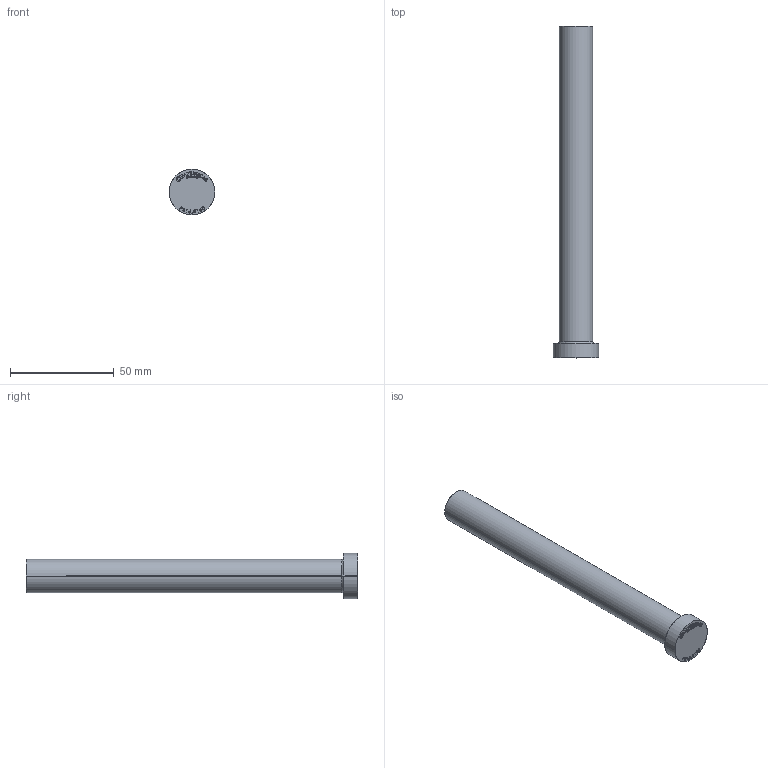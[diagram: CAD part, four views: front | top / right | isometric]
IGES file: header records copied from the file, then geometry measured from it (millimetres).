
Start section: SolidWorks IGES file using analytic representation for surfaces
Global section: file name: C:\Users\User\Downloads\Matripeça 31-08 tar\PB - PINO EXTRATOR TIPO _B_ (CATÁLOGO)\PB16,0\PB16,0160.IGS; native system: SolidWorks 2024; preprocessor: SolidWorks 2024; author: User; date: 260901.154935; units: millimetre
Bounding box: 22 x 160 x 22 mm (x, y, z)
Surface area: 8934.5 mm2 (no closed solid volume)
Topology: 0 solids, 0 shells, 394 faces, 4074 edges, 4074 vertices
Faces by surface type: bspline 380, revolution 14
